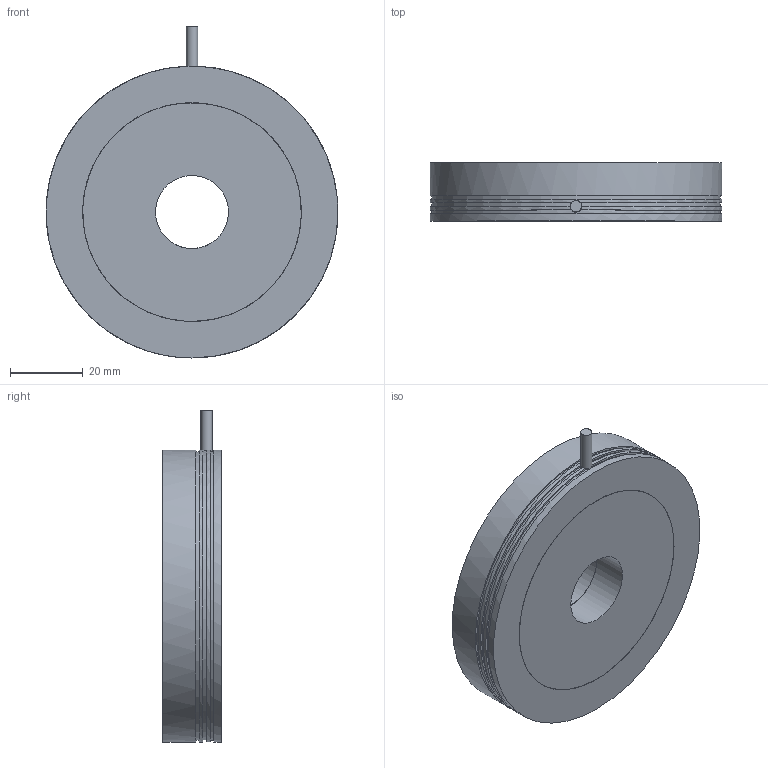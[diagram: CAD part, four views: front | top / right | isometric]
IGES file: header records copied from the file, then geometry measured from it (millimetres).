
Global section: file name: 153-00729_LR 70 xID-24-KFL5; native system: Autodesk Inventor 2018; preprocessor: unknown; author: ss; date: 20180725.105949; units: millimetre
Bounding box: 80 x 16 x 91 mm (x, y, z)
Volume: 75007.9 mm3; surface area: 27160.3 mm2
Topology: 3 solids, 3 shells, 47 faces, 118 edges, 87 vertices
Faces by surface type: bspline 47
